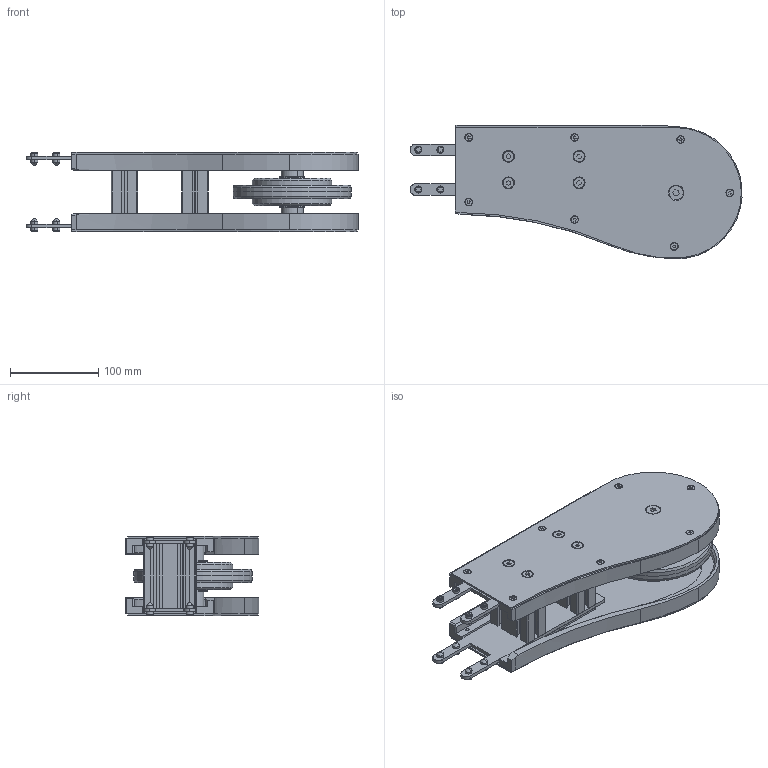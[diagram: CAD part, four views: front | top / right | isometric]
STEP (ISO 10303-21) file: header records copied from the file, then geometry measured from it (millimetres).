
FILE_DESCRIPTION (( 'STEP AP214' ), '1' );
FILE_NAME ('2000.325.200.STEP', '2021-06-18T07:47:30', ( 'Localadmin' ), ( 'Microsoft' ), 'SwSTEP 2.0', 'SolidWorks 2018', '' );
FILE_SCHEMA (( 'AUTOMOTIVE_DESIGN' ));
Length unit declared in the file: millimetre
Products named in the file (17): Circlip DIN 471 - 25 x 1.2_Circlip DIN 471 - 25 x 1.2; VITI TSEI UNI 5933 INOX_0820UNI5933A2; VITI TSEI UNI 5933 INOX_0620UNI5933A2; VITI TSEI UNI 5933 INOX_0410UNI5933A2; GRANI A PUNTA CONICA UNI 5927 INOX_M8x14 UNI 5927 INOX; 2000.001.223; 2000.001.213; 0630UNI8735; 2000.001.212; 2000.325.001_Default<Lavorato>; 2000.001.001; 2000.001.224; 2000.001.222; 2000.001.225; 2000.001.221; 2000.001.220; 2000.325.200
Assembly tree (50 placements, depth 3):
  2000.325.200
    2000.001.220
    2000.001.221
    2000.001.225
    2000.001.222
    2000.001.224  x2
    2000.001.001  x2
    2000.325.001_Default<Lavorato>  x2
    2000.001.213
      2000.001.212  x2
      0630UNI8735  x2
    2000.001.223
    GRANI A PUNTA CONICA UNI 5927 INOX_M8x14 UNI 5927 INOX  x8
    VITI TSEI UNI 5933 INOX_0410UNI5933A2  x14
    VITI TSEI UNI 5933 INOX_0620UNI5933A2  x8
    VITI TSEI UNI 5933 INOX_0820UNI5933A2  x2
    Circlip DIN 471 - 25 x 1.2_Circlip DIN 471 - 25 x 1.2  x2
Bounding box: 376.08 x 151.5 x 90 mm (x, y, z)
Volume: 1047592.4 mm3; surface area: 521687.4 mm2
Topology: 49 solids, 49 shells, 1196 faces, 2962 edges, 1900 vertices
Faces by surface type: plane 588, cylinder 392, cone 216
Entity records: 16885 total; most frequent: DIRECTION 2925, CARTESIAN_POINT 2739, ORIENTED_EDGE 2626, EDGE_CURVE 1313, AXIS2_PLACEMENT_3D 1068, VERTEX_POINT 858, LINE 789, VECTOR 789
